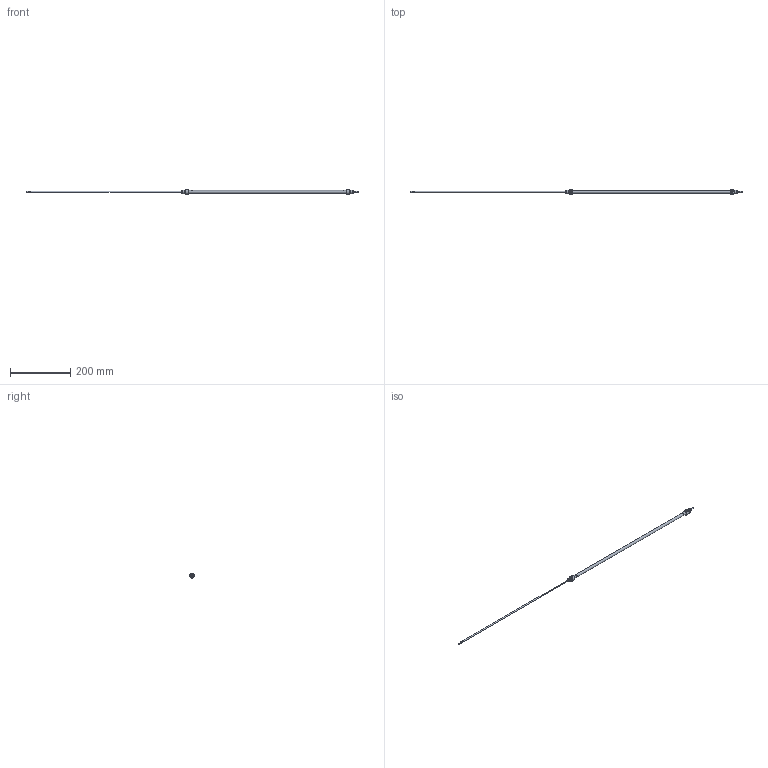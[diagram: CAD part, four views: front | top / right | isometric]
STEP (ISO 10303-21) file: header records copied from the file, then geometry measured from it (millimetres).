
FILE_DESCRIPTION( ( 'STEP AP203' ), '1' );
FILE_NAME( '//expscmdclustefs.cadenas.external/client_exchange/iodir/jobs/output/wkb68263360_no0/STEP/M101-08-0500--__0__2_03.stp', ' ', ( ' ' ), ( ' ' ), 'PSStep 15.0.47', 'PARTsolutions', ' ' );
FILE_SCHEMA( ( 'CONFIG_CONTROL_DESIGN' ) );
Length unit declared in the file: millimetre
Products named in the file (3): M101-08-0500-- [0]; HI_M101-08-0500---[0]-z; HI_M101-08-0500---[0]-k
Assembly tree (2 placements, depth 2):
  M101-08-0500-- [0]
    HI_M101-08-0500---[0]-z
    HI_M101-08-0500---[0]-k
Bounding box: 1102 x 15.98 x 14.97 mm (x, y, z)
Volume: 29849.8 mm3; surface area: 45543.8 mm2
Topology: 2 solids, 2 shells, 71 faces, 145 edges, 88 vertices
Faces by surface type: plane 32, cylinder 23, cone 14, torus 2
Full cylindrical faces by diameter (mm): 3.141 x2, 4 x6, 4.134 x2, 8 x2, 9.3 x1, 10.466 x4, 12 x4
Entity records: 1838 total; most frequent: CARTESIAN_POINT 358, DIRECTION 312, ORIENTED_EDGE 212, AXIS2_PLACEMENT_3D 140, EDGE_LOOP 120, EDGE_CURVE 106, FACE_OUTER_BOUND 94, VERTEX_POINT 82
